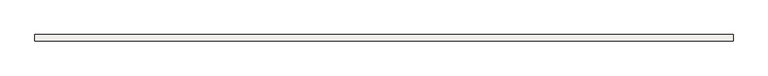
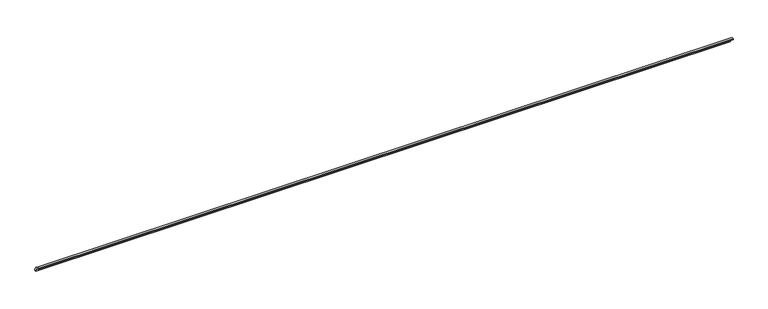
"""IFC4 building model written with IfcOpenShell, lengths in millimetres: slab geometry, ROSA GRES_183 : Pieza 183_Tao_Beige_Liso."""

from ifc_helpers import new_model, si_unit, point, frame, frame_2d, origin, origin_2d, place, context, project, spatial, polyline, circle_curve, trimmed, segment, composite_curve, outline, extrude, source, transform, mapped, element, save


def slab_685f944a(model_context):
    return source(origin(), model_context, "Body", "SweptSolid", [
        extrude(outline(composite_curve([segment(trimmed(circle_curve(origin_2d(), 40.0), [point((0.0, 40.0))], [point((40.0, 0.0))], False, "CARTESIAN"), True, "CONTINUOUS"), segment(polyline([(40.0, 0.0), (30.0265886, 0.0)]), True, "CONTINUOUS"), segment(trimmed(circle_curve(frame_2d((0.0044453, 0.0044453)), 30.0221435), [point((30.0265886, 0.0))], [point((0.0, 30.0265886))], True, "CARTESIAN"), True, "CONTINUOUS"), segment(polyline([(0.0, 30.0265886), (0.0, 40.0)]), True, "CONTINUOUS")], self_intersect=False)), frame((0.0, 0.0, 0.0), z_axis=(1.0, 0.0, 0.0), x_axis=(0.0, 1.0, 0.0)), (0.0, 0.0, 1.0), 4432.0),
    ])


if __name__ == "__main__":
    model = new_model("IFC4")
    model_context = context("Model", 3, world=origin())
    ifc_project = project(units=[si_unit("LENGTHUNIT", "METRE", prefix="MILLI")], contexts=[model_context])
    site = spatial("IfcSite", under=ifc_project)
    building = spatial("IfcBuilding", under=site)
    placement = place(None, origin())
    slab_shape = slab_685f944a(model_context)
    element("IfcSlab", 1, ObjectType="ROSA GRES_183 : Pieza 183_Tao_Beige_Liso", at=placement, inside=building, context=model_context, shape_type="MappedRepresentation", body=[
        mapped(slab_shape, transform((0.0, 0.0, 0.0), x_axis=(1.0, 0.0, 0.0), y_axis=(0.0, 1.0, 0.0), z_axis=(0.0, 0.0, 1.0))),
    ])
    save(model, "model.ifc")
